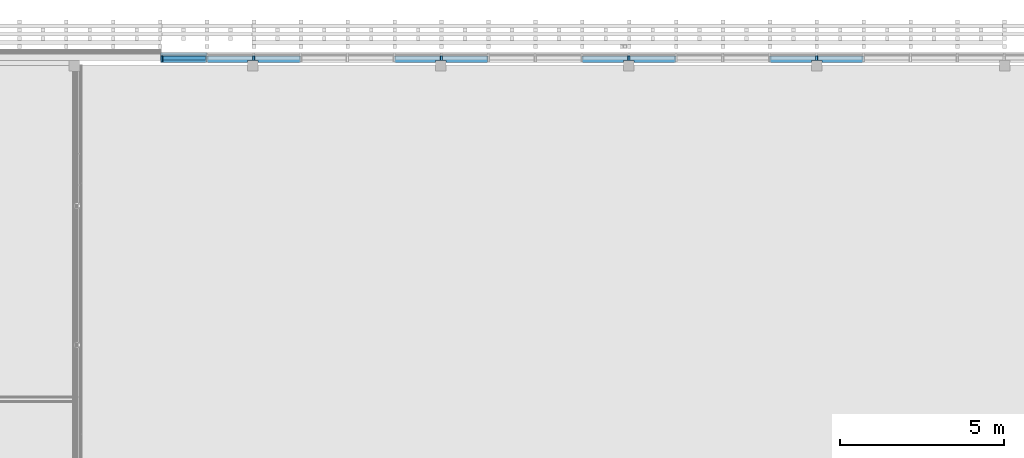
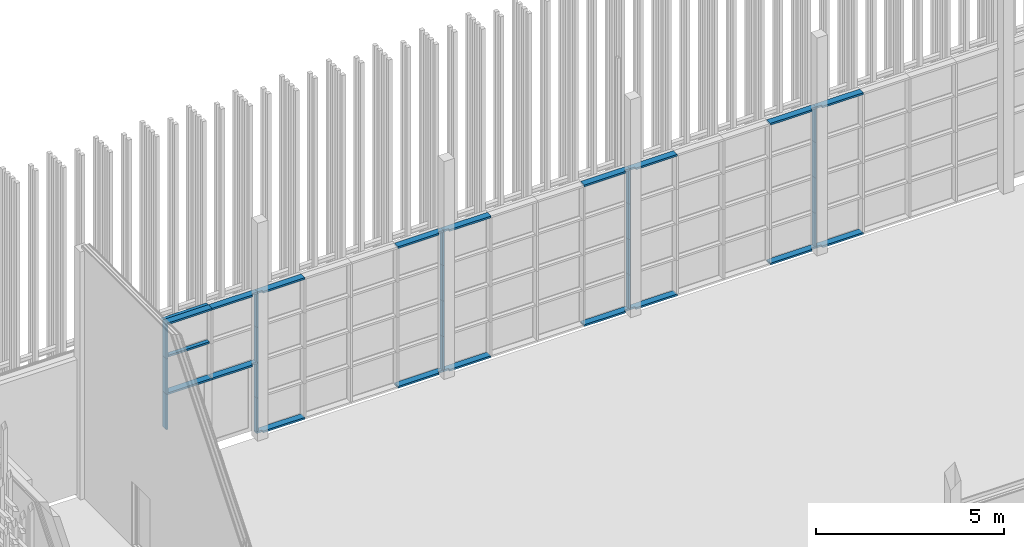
# One storey, part 90 of 260: 39 members, 2 elements without a shape of their own.
"""IFC2X3 building model written with IfcOpenShell, lengths in millimetres."""

from ifc_helpers import new_model, entity, si_unit, converted_unit, derived_unit, money_unit, direction, frame, origin_with_axes, place, context, subcontext, project, spatial, faceted_brep, material, type_object, element, aggregate, save


model = new_model("IFC2X3")

# Units and contexts
model_context = context("Model", 3, precision=0.01, world=origin_with_axes(), true_north=direction((0.0, 1.0)))
body_context = subcontext(model_context, "Body", "Model", "MODEL_VIEW")
ifc_project = project(units=[si_unit("LENGTHUNIT", "METRE", prefix="MILLI"), si_unit("AREAUNIT", "SQUARE_METRE"), si_unit("VOLUMEUNIT", "CUBIC_METRE"), converted_unit("PLANEANGLEUNIT", "DEGREE", entity("IfcPlaneAngleMeasure", 0.0174532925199), si_unit("PLANEANGLEUNIT", "RADIAN"), dimensions=[0, 0, 0, 0, 0, 0, 0]), money_unit("EUR"), converted_unit("TIMEUNIT", "Year", entity("IfcTimeMeasure", 31556926.0), si_unit("TIMEUNIT", "SECOND"), dimensions=[0, 0, 1, 0, 0, 0, 0]), si_unit("MASSUNIT", "GRAM", prefix="KILO"), si_unit("THERMODYNAMICTEMPERATUREUNIT", "DEGREE_CELSIUS"), si_unit("LUMINOUSINTENSITYUNIT", "LUMEN"), si_unit("ENERGYUNIT", "JOULE", prefix="MEGA"), derived_unit("THERMALCONDUCTANCEUNIT", [(si_unit("POWERUNIT", "WATT"), 1), (si_unit("LENGTHUNIT", "METRE"), -1), (si_unit("THERMODYNAMICTEMPERATUREUNIT", "KELVIN"), -1)]), derived_unit("SPECIFICHEATCAPACITYUNIT", [(si_unit("ENERGYUNIT", "JOULE"), 1), (si_unit("MASSUNIT", "GRAM", prefix="KILO"), -1), (si_unit("THERMODYNAMICTEMPERATUREUNIT", "KELVIN"), -1)]), derived_unit("MASSDENSITYUNIT", [(si_unit("MASSUNIT", "GRAM", prefix="KILO"), 1), (si_unit("VOLUMEUNIT", "CUBIC_METRE"), -1)])], contexts=[model_context])

# Site, building, storey
site_placement = place(None, origin_with_axes())
site = spatial("IfcSite", under=ifc_project, at=site_placement, Name="Kolde pst 67a", CompositionType="ELEMENT")
building_placement = place(site_placement, origin_with_axes())
building = spatial("IfcBuilding", under=site, at=building_placement, Name="Riigigümnaasium", CompositionType="ELEMENT")
storey_placement = place(building_placement, origin_with_axes())
storey = spatial("IfcBuildingStorey", under=building, at=storey_placement, Name="1. korrus", CompositionType="ELEMENT", Elevation=0.0)

# Curtain wall, member
curtain_wall_type = type_object("IfcCurtainWallType", Name="Curtain Wall Type", PredefinedType="NOTDEFINED")
curtain_wall_1_placement = place(storey_placement, frame((10366.0828546, 84639.9999608, 0.0), z_axis=(0.0, 0.0, 1.0), x_axis=(1.0, 0.0, 0.0)))
curtain_wall_1 = element("IfcCurtainWall", 1, at=curtain_wall_1_placement, inside=storey, type_object=curtain_wall_type, Name="KLAASFASSAAD")
ifc_material_1 = material(Name="_METALL - alumiinium")
member_type_1 = type_object("IfcMemberType", Name="Boundary Frame 50 x 100", PredefinedType="MEMBER")
member_1_placement = place(curtain_wall_1_placement, frame((-3553.58258302, 0.0, 4600.0), z_axis=(1.0, 0.0, 0.0), x_axis=(0.0, 0.0, 1.0)))
member_1 = element("IfcMember", 2, at=member_1_placement, type_object=member_type_1, material=ifc_material_1, Name="RF RAAM SERV-119", ObjectType="MEMBER", context=body_context, shape_type="Brep", body=[
    faceted_brep([(-30.0, 24.0, 1408.58258302), (-30.0, -24.0, 1408.58258302), (-50.0, -24.0, 1408.58258302), (-50.0, -40.0, 1408.58258302), (0.0, -40.0, 1408.58258302), (0.0, 60.0, 1408.58258302), (-50.0, 60.0, 1408.58258302), (-50.0, 24.0, 1408.58258302), (-30.0, 24.0, 30.0), (-30.0, -24.0, 30.0), (-50.0, -24.0, 50.0), (-50.0, -40.0, 50.0), (0.0, -40.0, 0.0), (0.0, 60.0, 0.0), (-50.0, 60.0, 50.0), (-50.0, 24.0, 50.0)], [[[0, 1, 2, 3, 4, 5, 6, 7]], [[1, 0, 8, 9]], [[10, 2, 1, 9]], [[2, 10, 11, 3]], [[4, 3, 11, 12]], [[5, 4, 12, 13]], [[6, 5, 13, 14]], [[15, 7, 6, 14]], [[0, 7, 15, 8]], [[8, 15, 14, 13, 12, 11, 10, 9]]]),
])
aggregate(curtain_wall_1, [member_1])

# Curtain wall, members
curtain_wall_2_placement = place(storey_placement, frame((7516.12873899, 84579.9999608, 0.0), z_axis=(0.0, 0.0, 1.0), x_axis=(1.0, 0.0, 0.0)))
curtain_wall_2 = element("IfcCurtainWall", 3, at=curtain_wall_2_placement, inside=storey, type_object=curtain_wall_type, Name="Klaasfassaadi puitkarkass")
ifc_material_2 = material(Name="_KANDETARIND - liimpuit vastavalt EK osale")
member_type_2 = type_object("IfcMemberType", Name="Transom Frame 60 x 120", PredefinedType="MEMBER")
member_2_placement = place(curtain_wall_2_placement, frame((-703.628467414, 0.0, 3450.0), z_axis=(1.0, 0.0, 0.0), x_axis=(0.0, 0.0, 1.0)))
member_2 = element("IfcMember", 4, at=member_2_placement, type_object=member_type_2, material=ifc_material_2, Name="RF RAAM HOR-496", ObjectType="MEMBER", context=body_context, shape_type="Brep", body=[
    faceted_brep([(30.0, 0.0, 60.0), (30.0, 120.0, 60.0), (30.0, 120.0, 1377.25693483), (30.0, 0.0, 1377.25693483), (-30.0, 0.0, 60.0), (-30.0, 120.0, 60.0), (-30.0, 120.0, 1377.25693483), (-30.0, 0.0, 1377.25693483)], [[[0, 1, 2, 3]], [[1, 0, 4, 5]], [[1, 5, 6, 2]], [[2, 6, 7, 3]], [[4, 0, 3, 7]], [[5, 4, 7, 6]]]),
])
member_type_3 = type_object("IfcMemberType", Name="Mullion Frame 60 x 200", PredefinedType="MEMBER")
member_3_placement = place(curtain_wall_2_placement, frame((2133.62846741, 0.0, 3450.0), z_axis=(0.0, 0.0, 1.0), x_axis=(-1.0, 0.0, 0.0)))
member_3 = element("IfcMember", 5, at=member_3_placement, type_object=member_type_3, material=ifc_material_2, Name="RF RAAM VERT-672", ObjectType="MEMBER", context=body_context, shape_type="Brep", body=[
    faceted_brep([(30.0, 140.0, 1090.0), (-30.0, 140.0, 1090.0), (-30.0, 0.0, 1090.0), (30.0, 0.0, 1090.0), (-30.0, 140.0, 0.0), (30.0, 140.0, 0.0), (-30.0, 0.0, 0.0), (30.0, 0.0, 0.0)], [[[0, 1, 2, 3]], [[4, 1, 0, 5]], [[1, 4, 6, 2]], [[6, 7, 3, 2]], [[5, 0, 3, 7]], [[4, 5, 7, 6]]]),
])
member_4_placement = place(curtain_wall_2_placement, frame((2133.62846741, 0.0, 0.0), z_axis=(0.0, 0.0, 1.0), x_axis=(-1.0, 0.0, 0.0)))
member_4 = element("IfcMember", 6, at=member_4_placement, type_object=member_type_3, material=ifc_material_2, Name="RF RAAM VERT-457", ObjectType="MEMBER", context=body_context, shape_type="Brep", body=[
    faceted_brep([(30.0, 140.0, 1150.0), (-30.0, 140.0, 1150.0), (-30.0, 0.0, 1150.0), (30.0, 0.0, 1150.0), (-30.0, 140.0, 60.0), (30.0, 140.0, 60.0), (-30.0, 0.0, 60.0), (30.0, 0.0, 60.0)], [[[0, 1, 2, 3]], [[4, 1, 0, 5]], [[1, 4, 6, 2]], [[2, 6, 7, 3]], [[5, 0, 3, 7]], [[4, 5, 7, 6]]]),
])
member_5_placement = place(curtain_wall_2_placement, frame((7853.62846741, 0.0, 0.0), z_axis=(0.0, 0.0, 1.0), x_axis=(-1.0, 0.0, 0.0)))
member_5 = element("IfcMember", 7, at=member_5_placement, type_object=member_type_3, material=ifc_material_2, Name="RF RAAM VERT-461", ObjectType="MEMBER", context=body_context, shape_type="Brep", body=[
    faceted_brep([(30.0, 140.019126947, 1150.0), (-30.0, 140.019126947, 1150.0), (-30.0, 0.0, 1150.0), (30.0, 0.0, 1150.0), (-30.0, 140.019126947, 60.0), (30.0, 140.019126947, 60.0), (-30.0, 0.0, 60.0), (30.0, 0.0, 60.0)], [[[0, 1, 2, 3]], [[4, 1, 0, 5]], [[1, 4, 6, 2]], [[2, 6, 7, 3]], [[5, 0, 3, 7]], [[4, 5, 7, 6]]]),
])
member_6_placement = place(curtain_wall_2_placement, frame((13573.6284674, 0.0, 0.0), z_axis=(0.0, 0.0, 1.0), x_axis=(-1.0, 0.0, 0.0)))
member_6 = element("IfcMember", 8, at=member_6_placement, type_object=member_type_3, material=ifc_material_2, Name="RF RAAM VERT-465", ObjectType="MEMBER", context=body_context, shape_type="Brep", body=[
    faceted_brep([(30.0, 140.019126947, 1150.0), (-30.0, 140.019126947, 1150.0), (-30.0, 0.0, 1150.0), (30.0, 0.0, 1150.0), (-30.0, 140.019126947, 60.0), (30.0, 140.019126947, 60.0), (-30.0, 0.0, 60.0), (30.0, 0.0, 60.0)], [[[0, 1, 2, 3]], [[4, 1, 0, 5]], [[1, 4, 6, 2]], [[2, 6, 7, 3]], [[5, 0, 3, 7]], [[4, 5, 7, 6]]]),
])
member_7_placement = place(curtain_wall_2_placement, frame((19293.6284674, 0.0, 0.0), z_axis=(0.0, 0.0, 1.0), x_axis=(-1.0, 0.0, 0.0)))
member_7 = element("IfcMember", 9, at=member_7_placement, type_object=member_type_3, material=ifc_material_2, Name="RF RAAM VERT-469", ObjectType="MEMBER", context=body_context, shape_type="Brep", body=[
    faceted_brep([(30.0, 140.019126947, 1150.0), (-30.0, 140.019126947, 1150.0), (-30.0, 0.0, 1150.0), (30.0, 0.0, 1150.0), (-30.0, 140.019126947, 60.0), (30.0, 140.019126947, 60.0), (-30.0, 0.0, 60.0), (30.0, 0.0, 60.0)], [[[0, 1, 2, 3]], [[4, 1, 0, 5]], [[1, 4, 6, 2]], [[2, 6, 7, 3]], [[5, 0, 3, 7]], [[4, 5, 7, 6]]]),
])
member_8_placement = place(curtain_wall_2_placement, frame((2133.62846741, 0.0, 1150.0), z_axis=(0.0, 0.0, 1.0), x_axis=(-1.0, 0.0, 0.0)))
member_8 = element("IfcMember", 10, at=member_8_placement, type_object=member_type_3, material=ifc_material_2, Name="RF RAAM VERT-479", ObjectType="MEMBER", context=body_context, shape_type="Brep", body=[
    faceted_brep([(0.0, 140.0, 1150.0), (-30.0, 140.0, 1150.0), (-30.0, 0.0, 1150.0), (0.0, 0.0, 1150.0), (-30.0, 140.0, 0.0), (0.0, 140.0, 1120.0), (30.0, 140.0, 1120.0), (30.0, 140.0, 0.0), (-30.0, 0.0, 0.0), (0.0, 0.0, 1120.0), (30.0, 0.0, 0.0), (30.0, 0.0, 1120.0)], [[[0, 1, 2, 3]], [[4, 1, 0, 5, 6, 7]], [[1, 4, 8, 2]], [[9, 3, 2, 8, 10, 11]], [[5, 0, 3, 9]], [[6, 5, 9, 11]], [[7, 6, 11, 10]], [[4, 7, 10, 8]]]),
])
member_9_placement = place(curtain_wall_2_placement, frame((7853.62846741, 0.0, 1150.0), z_axis=(0.0, 0.0, 1.0), x_axis=(-1.0, 0.0, 0.0)))
member_9 = element("IfcMember", 11, at=member_9_placement, type_object=member_type_3, material=ifc_material_2, Name="RF RAAM VERT-483", ObjectType="MEMBER", context=body_context, shape_type="Brep", body=[
    faceted_brep([(30.0, 140.019126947, 1150.0), (-30.0, 140.019126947, 1150.0), (-30.0, 0.0, 1150.0), (30.0, 0.0, 1150.0), (-30.0, 140.019126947, 0.0), (30.0, 140.019126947, 0.0), (-30.0, 0.0, 0.0), (30.0, 0.0, 0.0)], [[[0, 1, 2, 3]], [[4, 1, 0, 5]], [[1, 4, 6, 2]], [[6, 7, 3, 2]], [[5, 0, 3, 7]], [[4, 5, 7, 6]]]),
])
member_10_placement = place(curtain_wall_2_placement, frame((13573.6284674, 0.0, 1150.0), z_axis=(0.0, 0.0, 1.0), x_axis=(-1.0, 0.0, 0.0)))
member_10 = element("IfcMember", 12, at=member_10_placement, type_object=member_type_3, material=ifc_material_2, Name="RF RAAM VERT-487", ObjectType="MEMBER", context=body_context, shape_type="Brep", body=[
    faceted_brep([(30.0, 140.019126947, 1150.0), (-30.0, 140.019126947, 1150.0), (-30.0, 0.0, 1150.0), (30.0, 0.0, 1150.0), (-30.0, 140.019126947, 0.0), (30.0, 140.019126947, 0.0), (-30.0, 0.0, 0.0), (30.0, 0.0, 0.0)], [[[0, 1, 2, 3]], [[4, 1, 0, 5]], [[1, 4, 6, 2]], [[6, 7, 3, 2]], [[5, 0, 3, 7]], [[4, 5, 7, 6]]]),
])
member_11_placement = place(curtain_wall_2_placement, frame((19293.6284674, 0.0, 1150.0), z_axis=(0.0, 0.0, 1.0), x_axis=(-1.0, 0.0, 0.0)))
member_11 = element("IfcMember", 13, at=member_11_placement, type_object=member_type_3, material=ifc_material_2, Name="RF RAAM VERT-491", ObjectType="MEMBER", context=body_context, shape_type="Brep", body=[
    faceted_brep([(30.0, 140.019126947, 1150.0), (-30.0, 140.019126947, 1150.0), (-30.0, 0.0, 1150.0), (30.0, 0.0, 1150.0), (-30.0, 140.019126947, 0.0), (30.0, 140.019126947, 0.0), (-30.0, 0.0, 0.0), (30.0, 0.0, 0.0)], [[[0, 1, 2, 3]], [[4, 1, 0, 5]], [[1, 4, 6, 2]], [[6, 7, 3, 2]], [[5, 0, 3, 7]], [[4, 5, 7, 6]]]),
])
member_12_placement = place(curtain_wall_2_placement, frame((2133.62846741, 0.0, 2300.0), z_axis=(0.0, 0.0, 1.0), x_axis=(-1.0, 0.0, 0.0)))
member_12 = element("IfcMember", 14, at=member_12_placement, type_object=member_type_3, material=ifc_material_2, Name="RF RAAM VERT-501", ObjectType="MEMBER", context=body_context, shape_type="Brep", body=[
    faceted_brep([(30.0, 140.0, 1150.0), (-30.0, 140.0, 1150.0), (-30.0, 0.0, 1150.0), (30.0, 0.0, 1150.0), (-30.0, 140.0, 0.0), (30.0, 140.0, 30.0), (0.0, 140.0, 30.0), (0.0, 140.0, 0.0), (-30.0, 0.0, 0.0), (0.0, 0.0, 0.0), (0.0, 0.0, 30.0), (30.0, 0.0, 30.0)], [[[0, 1, 2, 3]], [[4, 1, 0, 5, 6, 7]], [[1, 4, 8, 2]], [[9, 10, 11, 3, 2, 8]], [[5, 0, 3, 11]], [[6, 5, 11, 10]], [[7, 6, 10, 9]], [[4, 7, 9, 8]]]),
])
member_13_placement = place(curtain_wall_2_placement, frame((7853.62846741, 0.0, 2300.0), z_axis=(0.0, 0.0, 1.0), x_axis=(-1.0, 0.0, 0.0)))
member_13 = element("IfcMember", 15, at=member_13_placement, type_object=member_type_3, material=ifc_material_2, Name="RF RAAM VERT-505", ObjectType="MEMBER", context=body_context, shape_type="Brep", body=[
    faceted_brep([(30.0, 140.019126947, 1150.0), (-30.0, 140.019126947, 1150.0), (-30.0, 0.0, 1150.0), (30.0, 0.0, 1150.0), (-30.0, 140.019126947, 0.0), (30.0, 140.019126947, 0.0), (-30.0, 0.0, 0.0), (30.0, 0.0, 0.0)], [[[0, 1, 2, 3]], [[4, 1, 0, 5]], [[1, 4, 6, 2]], [[6, 7, 3, 2]], [[5, 0, 3, 7]], [[4, 5, 7, 6]]]),
])
member_14_placement = place(curtain_wall_2_placement, frame((13573.6284674, 0.0, 2300.0), z_axis=(0.0, 0.0, 1.0), x_axis=(-1.0, 0.0, 0.0)))
member_14 = element("IfcMember", 16, at=member_14_placement, type_object=member_type_3, material=ifc_material_2, Name="RF RAAM VERT-509", ObjectType="MEMBER", context=body_context, shape_type="Brep", body=[
    faceted_brep([(30.0, 140.019126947, 1150.0), (-30.0, 140.019126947, 1150.0), (-30.0, 0.0, 1150.0), (30.0, 0.0, 1150.0), (-30.0, 140.019126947, 0.0), (30.0, 140.019126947, 0.0), (-30.0, 0.0, 0.0), (30.0, 0.0, 0.0)], [[[0, 1, 2, 3]], [[4, 1, 0, 5]], [[1, 4, 6, 2]], [[6, 7, 3, 2]], [[5, 0, 3, 7]], [[4, 5, 7, 6]]]),
])
member_15_placement = place(curtain_wall_2_placement, frame((19293.6284674, 0.0, 2300.0), z_axis=(0.0, 0.0, 1.0), x_axis=(-1.0, 0.0, 0.0)))
member_15 = element("IfcMember", 17, at=member_15_placement, type_object=member_type_3, material=ifc_material_2, Name="RF RAAM VERT-513", ObjectType="MEMBER", context=body_context, shape_type="Brep", body=[
    faceted_brep([(30.0, 140.019126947, 1150.0), (-30.0, 140.019126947, 1150.0), (-30.0, 0.0, 1150.0), (30.0, 0.0, 1150.0), (-30.0, 140.019126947, 0.0), (30.0, 140.019126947, 0.0), (-30.0, 0.0, 0.0), (30.0, 0.0, 0.0)], [[[0, 1, 2, 3]], [[4, 1, 0, 5]], [[1, 4, 6, 2]], [[6, 7, 3, 2]], [[5, 0, 3, 7]], [[4, 5, 7, 6]]]),
])
member_16_placement = place(curtain_wall_2_placement, frame((7853.62846741, 0.0, 3450.0), z_axis=(0.0, 0.0, 1.0), x_axis=(-1.0, 0.0, 0.0)))
member_16 = element("IfcMember", 18, at=member_16_placement, type_object=member_type_3, material=ifc_material_2, Name="RF RAAM VERT-676", ObjectType="MEMBER", context=body_context, shape_type="Brep", body=[
    faceted_brep([(30.0, 140.019126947, 1090.0), (-30.0, 140.019126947, 1090.0), (-30.0, 0.0, 1090.0), (30.0, 0.0, 1090.0), (-30.0, 140.019126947, 0.0), (30.0, 140.019126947, 0.0), (-30.0, 0.0, 0.0), (30.0, 0.0, 0.0)], [[[0, 1, 2, 3]], [[4, 1, 0, 5]], [[1, 4, 6, 2]], [[6, 7, 3, 2]], [[5, 0, 3, 7]], [[4, 5, 7, 6]]]),
])
member_17_placement = place(curtain_wall_2_placement, frame((13573.6284674, 0.0, 3450.0), z_axis=(0.0, 0.0, 1.0), x_axis=(-1.0, 0.0, 0.0)))
member_17 = element("IfcMember", 19, at=member_17_placement, type_object=member_type_3, material=ifc_material_2, Name="RF RAAM VERT-680", ObjectType="MEMBER", context=body_context, shape_type="Brep", body=[
    faceted_brep([(30.0, 140.019126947, 1090.0), (-30.0, 140.019126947, 1090.0), (-30.0, 0.0, 1090.0), (30.0, 0.0, 1090.0), (-30.0, 140.019126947, 0.0), (30.0, 140.019126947, 0.0), (-30.0, 0.0, 0.0), (30.0, 0.0, 0.0)], [[[0, 1, 2, 3]], [[4, 1, 0, 5]], [[1, 4, 6, 2]], [[6, 7, 3, 2]], [[5, 0, 3, 7]], [[4, 5, 7, 6]]]),
])
member_18_placement = place(curtain_wall_2_placement, frame((19293.6284674, 0.0, 3450.0), z_axis=(0.0, 0.0, 1.0), x_axis=(-1.0, 0.0, 0.0)))
member_18 = element("IfcMember", 20, at=member_18_placement, type_object=member_type_3, material=ifc_material_2, Name="RF RAAM VERT-684", ObjectType="MEMBER", context=body_context, shape_type="Brep", body=[
    faceted_brep([(30.0, 140.019126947, 1090.0), (-30.0, 140.019126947, 1090.0), (-30.0, 0.0, 1090.0), (30.0, 0.0, 1090.0), (-30.0, 140.019126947, 0.0), (30.0, 140.019126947, 0.0), (-30.0, 0.0, 0.0), (30.0, 0.0, 0.0)], [[[0, 1, 2, 3]], [[4, 1, 0, 5]], [[1, 4, 6, 2]], [[6, 7, 3, 2]], [[5, 0, 3, 7]], [[4, 5, 7, 6]]]),
])
member_type_4 = type_object("IfcMemberType", Name="Boundary Frame 60 x 200", PredefinedType="MEMBER")
member_19_placement = place(curtain_wall_2_placement, frame((-703.628467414, 0.0, 4600.0), z_axis=(0.0, 0.0, -1.0), x_axis=(1.0, 0.0, 0.0)))
member_19 = element("IfcMember", 21, at=member_19_placement, type_object=member_type_4, material=ifc_material_2, Name="RF RAAM SERV-456", ObjectType="MEMBER", context=body_context, shape_type="Brep", body=[
    faceted_brep([(60.0, 0.0, 60.0), (60.0, 200.0, 60.0), (60.0, 200.0, 1150.0), (60.0, 0.0, 1150.0), (0.0, 0.0, 0.0), (0.0, 200.0, 0.0), (0.0, 200.0, 1150.0), (0.0, 0.0, 1150.0)], [[[0, 1, 2, 3]], [[1, 0, 4, 5]], [[1, 5, 6, 2]], [[2, 6, 7, 3]], [[4, 0, 3, 7]], [[5, 4, 7, 6]]]),
])
member_20_placement = place(curtain_wall_2_placement, frame((2133.62846741, 0.0, 0.0), z_axis=(1.0, 0.0, 0.0), x_axis=(0.0, 0.0, 1.0)))
member_20 = element("IfcMember", 22, at=member_20_placement, type_object=member_type_4, material=ifc_material_2, Name="RF RAAM SERV-412", ObjectType="MEMBER", context=body_context, shape_type="Brep", body=[
    faceted_brep([(60.0, 140.0, 140.242793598), (60.0, 200.0, 140.242793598), (60.0, 200.0, 1430.0), (60.0, 0.0, 1430.0), (60.0, 0.0, -30.0), (60.0, 140.0, -30.0), (0.0, 140.0, 140.242793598), (0.0, 200.0, 140.242793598), (0.0, 200.0, 1430.0), (0.0, 0.0, 1430.0), (0.0, 0.0, -30.0), (0.0, 140.0, -30.0)], [[[0, 1, 2, 3, 4, 5]], [[1, 0, 6, 7]], [[1, 7, 8, 2]], [[3, 2, 8, 9]], [[10, 4, 3, 9]], [[11, 5, 4, 10]], [[0, 5, 11, 6]], [[6, 11, 10, 9, 8, 7]]]),
])
member_21_placement = place(curtain_wall_2_placement, frame((6423.62846741, 0.0, 0.0), z_axis=(1.0, 0.0, 0.0), x_axis=(0.0, 0.0, 1.0)))
member_21 = element("IfcMember", 23, at=member_21_placement, type_object=member_type_4, material=ifc_material_2, Name="RF RAAM SERV-415", ObjectType="MEMBER", context=body_context, shape_type="Brep", body=[
    faceted_brep([(60.0, 200.0, 1260.2427936), (60.0, 140.019126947, 1260.2427936), (60.0, 140.019126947, 1430.0), (60.0, 0.0, 1430.0), (60.0, 0.0, 0.0), (60.0, 200.0, 0.0), (0.0, 200.0, 1260.2427936), (0.0, 140.019126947, 1260.2427936), (0.0, 140.019126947, 1430.0), (0.0, 0.0, 1430.0), (0.0, 0.0, 0.0), (0.0, 200.0, 0.0)], [[[0, 1, 2, 3, 4, 5]], [[1, 0, 6, 7]], [[8, 2, 1, 7]], [[2, 8, 9, 3]], [[10, 4, 3, 9]], [[11, 5, 4, 10]], [[6, 0, 5, 11]], [[7, 6, 11, 10, 9, 8]]]),
])
member_22_placement = place(curtain_wall_2_placement, frame((7853.62846741, 0.0, 0.0), z_axis=(1.0, 0.0, 0.0), x_axis=(0.0, 0.0, 1.0)))
member_22 = element("IfcMember", 24, at=member_22_placement, type_object=member_type_4, material=ifc_material_2, Name="RF RAAM SERV-416", ObjectType="MEMBER", context=body_context, shape_type="Brep", body=[
    faceted_brep([(60.0, 140.019126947, 150.242793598), (60.0, 200.0, 150.242793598), (60.0, 200.0, 1430.0), (60.0, 0.0, 1430.0), (60.0, 0.0, 0.0), (60.0, 140.019126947, 0.0), (0.0, 140.019126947, 150.242793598), (0.0, 200.0, 150.242793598), (0.0, 200.0, 1430.0), (0.0, 0.0, 1430.0), (0.0, 0.0, 0.0), (0.0, 140.019126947, 0.0)], [[[0, 1, 2, 3, 4, 5]], [[1, 0, 6, 7]], [[1, 7, 8, 2]], [[3, 2, 8, 9]], [[10, 4, 3, 9]], [[11, 5, 4, 10]], [[0, 5, 11, 6]], [[6, 11, 10, 9, 8, 7]]]),
])
member_23_placement = place(curtain_wall_2_placement, frame((12143.6284674, 0.0, 0.0), z_axis=(1.0, 0.0, 0.0), x_axis=(0.0, 0.0, 1.0)))
member_23 = element("IfcMember", 25, at=member_23_placement, type_object=member_type_4, material=ifc_material_2, Name="RF RAAM SERV-419", ObjectType="MEMBER", context=body_context, shape_type="Brep", body=[
    faceted_brep([(60.0, 200.0, 1270.2427936), (60.0, 140.019126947, 1270.2427936), (60.0, 140.019126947, 1430.0), (60.0, 0.0, 1430.0), (60.0, 0.0, 0.0), (60.0, 200.0, 0.0), (0.0, 200.0, 1270.2427936), (0.0, 140.019126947, 1270.2427936), (0.0, 140.019126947, 1430.0), (0.0, 0.0, 1430.0), (0.0, 0.0, 0.0), (0.0, 200.0, 0.0)], [[[0, 1, 2, 3, 4, 5]], [[1, 0, 6, 7]], [[8, 2, 1, 7]], [[2, 8, 9, 3]], [[10, 4, 3, 9]], [[11, 5, 4, 10]], [[6, 0, 5, 11]], [[7, 6, 11, 10, 9, 8]]]),
])
member_24_placement = place(curtain_wall_2_placement, frame((13573.6284674, 0.0, 0.0), z_axis=(1.0, 0.0, 0.0), x_axis=(0.0, 0.0, 1.0)))
member_24 = element("IfcMember", 26, at=member_24_placement, type_object=member_type_4, material=ifc_material_2, Name="RF RAAM SERV-420", ObjectType="MEMBER", context=body_context, shape_type="Brep", body=[
    faceted_brep([(60.0, 140.019126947, 160.242793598), (60.0, 200.0, 160.242793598), (60.0, 200.0, 1430.0), (60.0, 0.0, 1430.0), (60.0, 0.0, 0.0), (60.0, 140.019126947, 0.0), (0.0, 140.019126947, 160.242793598), (0.0, 200.0, 160.242793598), (0.0, 200.0, 1430.0), (0.0, 0.0, 1430.0), (0.0, 0.0, 0.0), (0.0, 140.019126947, 0.0)], [[[0, 1, 2, 3, 4, 5]], [[1, 0, 6, 7]], [[1, 7, 8, 2]], [[3, 2, 8, 9]], [[10, 4, 3, 9]], [[11, 5, 4, 10]], [[0, 5, 11, 6]], [[6, 11, 10, 9, 8, 7]]]),
])
member_25_placement = place(curtain_wall_2_placement, frame((17863.6284674, 0.0, 0.0), z_axis=(1.0, 0.0, 0.0), x_axis=(0.0, 0.0, 1.0)))
member_25 = element("IfcMember", 27, at=member_25_placement, type_object=member_type_4, material=ifc_material_2, Name="RF RAAM SERV-423", ObjectType="MEMBER", context=body_context, shape_type="Brep", body=[
    faceted_brep([(60.0, 200.0, 1280.2427936), (60.0, 140.019126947, 1280.2427936), (60.0, 140.019126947, 1430.0), (60.0, 0.0, 1430.0), (60.0, 0.0, 0.0), (60.0, 200.0, 0.0), (0.0, 200.0, 1280.2427936), (0.0, 140.019126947, 1280.2427936), (0.0, 140.019126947, 1430.0), (0.0, 0.0, 1430.0), (0.0, 0.0, 0.0), (0.0, 200.0, 0.0)], [[[0, 1, 2, 3, 4, 5]], [[1, 0, 6, 7]], [[8, 2, 1, 7]], [[2, 8, 9, 3]], [[10, 4, 3, 9]], [[11, 5, 4, 10]], [[6, 0, 5, 11]], [[7, 6, 11, 10, 9, 8]]]),
])
member_26_placement = place(curtain_wall_2_placement, frame((19293.6284674, 0.0, 0.0), z_axis=(1.0, 0.0, 0.0), x_axis=(0.0, 0.0, 1.0)))
member_26 = element("IfcMember", 28, at=member_26_placement, type_object=member_type_4, material=ifc_material_2, Name="RF RAAM SERV-424", ObjectType="MEMBER", context=body_context, shape_type="Brep", body=[
    faceted_brep([(60.0, 140.019126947, 170.242793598), (60.0, 200.0, 170.242793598), (60.0, 200.0, 1430.0), (60.0, 0.0, 1430.0), (60.0, 0.0, 0.0), (60.0, 140.019126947, 0.0), (0.0, 140.019126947, 170.242793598), (0.0, 200.0, 170.242793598), (0.0, 200.0, 1430.0), (0.0, 0.0, 1430.0), (0.0, 0.0, 0.0), (0.0, 140.019126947, 0.0)], [[[0, 1, 2, 3, 4, 5]], [[1, 0, 6, 7]], [[1, 7, 8, 2]], [[3, 2, 8, 9]], [[10, 4, 3, 9]], [[11, 5, 4, 10]], [[0, 5, 11, 6]], [[6, 11, 10, 9, 8, 7]]]),
])
member_27_placement = place(curtain_wall_2_placement, frame((703.628467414, 0.0, 2300.0), z_axis=(1.0, 0.0, 0.0), x_axis=(0.0, 0.0, 1.0)))
member_27 = element("IfcMember", 29, at=member_27_placement, type_object=member_type_4, material=ifc_material_2, Name="RF RAAM HOR-474", ObjectType="MEMBER", context=body_context, shape_type="Brep", body=[
    faceted_brep([(30.0, 200.0, 1250.2427936), (30.0, 140.0, 1250.2427936), (30.0, 140.0, 1430.0), (30.0, 0.0, 1430.0), (30.0, 0.0, 0.0), (30.0, 200.0, 0.0), (-30.0, 200.0, 1250.2427936), (-30.0, 140.0, 1250.2427936), (-30.0, 140.0, 1430.0), (-30.0, 0.0, 1430.0), (-30.0, 0.0, 0.0), (-30.0, 200.0, 0.0)], [[[0, 1, 2, 3, 4, 5]], [[1, 0, 6, 7]], [[8, 2, 1, 7]], [[2, 8, 9, 3]], [[10, 4, 3, 9]], [[11, 5, 4, 10]], [[6, 0, 5, 11]], [[7, 6, 11, 10, 9, 8]]]),
])
member_28_placement = place(curtain_wall_2_placement, frame((-703.628467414, 0.0, 3450.0), z_axis=(0.0, 0.0, -1.0), x_axis=(1.0, 0.0, 0.0)))
member_28 = element("IfcMember", 30, at=member_28_placement, type_object=member_type_4, material=ifc_material_2, Name="RF RAAM SERV-457", ObjectType="MEMBER", context=body_context, shape_type="Brep", body=[
    faceted_brep([(0.0, 0.0, 1150.0), (0.0, 0.0, 0.0), (60.0, 0.0, 0.0), (60.0, 0.0, 1120.0), (0.0, 200.0, 1150.0), (0.0, 200.0, 0.0), (60.0, 200.0, 0.0), (60.0, 200.0, 1120.0)], [[[0, 1, 2, 3]], [[4, 5, 1, 0]], [[5, 6, 2, 1]], [[3, 2, 6, 7]], [[7, 4, 0, 3]], [[7, 6, 5, 4]]]),
])
member_29_placement = place(curtain_wall_2_placement, frame((-703.628467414, 0.0, 2300.0), z_axis=(1.0, 0.0, 0.0), x_axis=(0.0, 0.0, 1.0)))
member_29 = element("IfcMember", 31, at=member_29_placement, type_object=member_type_4, material=ifc_material_2, Name="RF RAAM HOR-694", ObjectType="MEMBER", context=body_context, shape_type="Brep", body=[
    faceted_brep([(30.0, 200.0, 60.0), (30.0, 200.0, 1407.25693483), (30.0, 0.0, 1407.25693483), (30.0, 0.0, 60.0), (0.0, 200.0, 0.0), (-30.0, 200.0, 60.0), (-30.0, 200.0, 1407.25693483), (-30.0, 0.0, 1407.25693483), (0.0, 0.0, 0.0), (-30.0, 0.0, 60.0)], [[[0, 1, 2, 3]], [[4, 5, 6, 1, 0]], [[2, 1, 6, 7]], [[8, 3, 2, 7, 9]], [[8, 4, 0, 3]], [[9, 5, 4, 8]], [[9, 7, 6, 5]]]),
])
member_30_placement = place(curtain_wall_2_placement, frame((-703.628467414, 0.0, 2300.0), z_axis=(0.0, 0.0, -1.0), x_axis=(1.0, 0.0, 0.0)))
member_30 = element("IfcMember", 32, at=member_30_placement, type_object=member_type_4, material=ifc_material_2, Name="RF RAAM SERV-458", ObjectType="MEMBER", context=body_context, shape_type="Brep", body=[
    faceted_brep([(60.0, 200.0, 30.0), (60.0, 200.0, 1150.0), (60.0, 0.0, 1150.0), (60.0, 0.0, 30.0), (0.0, 200.0, 0.0), (0.0, 200.0, 1150.0), (0.0, 0.0, 1150.0), (0.0, 0.0, 0.0)], [[[0, 1, 2, 3]], [[4, 5, 1, 0]], [[2, 1, 5, 6]], [[3, 2, 6, 7]], [[7, 4, 0, 3]], [[7, 6, 5, 4]]]),
])
member_31_placement = place(curtain_wall_2_placement, frame((-703.628467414, 0.0, 4600.0), z_axis=(1.0, 0.0, 0.0), x_axis=(0.0, 0.0, 1.0)))
member_31 = element("IfcMember", 33, at=member_31_placement, type_object=member_type_4, material=ifc_material_2, Name="RF RAAM SERV-455", ObjectType="MEMBER", context=body_context, shape_type="Brep", body=[
    faceted_brep([(-60.0, 0.0, 60.0), (-60.0, 0.0, 1407.25693483), (-60.0, 200.0, 1407.25693483), (-60.0, 200.0, 60.0), (0.0, 0.0, 0.0), (0.0, 0.0, 1407.25693483), (0.0, 200.0, 1407.25693483), (0.0, 200.0, 0.0)], [[[0, 1, 2, 3]], [[4, 5, 1, 0]], [[2, 1, 5, 6]], [[3, 2, 6, 7]], [[3, 7, 4, 0]], [[7, 6, 5, 4]]]),
])
member_32_placement = place(curtain_wall_2_placement, frame((703.628467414, 0.0, 4600.0), z_axis=(1.0, 0.0, 0.0), x_axis=(0.0, 0.0, 1.0)))
member_32 = element("IfcMember", 34, at=member_32_placement, type_object=member_type_4, material=ifc_material_2, Name="RF RAAM SERV-454", ObjectType="MEMBER", context=body_context, shape_type="Brep", body=[
    faceted_brep([(0.0, 200.0, 1250.2427936), (0.0, 140.0, 1250.2427936), (0.0, 140.0, 1430.0), (0.0, 0.0, 1430.0), (0.0, 0.0, 0.0), (0.0, 200.0, 0.0), (-60.0, 200.0, 1250.2427936), (-60.0, 140.0, 1250.2427936), (-60.0, 140.0, 1430.0), (-60.0, 0.0, 1430.0), (-60.0, 0.0, 0.0), (-60.0, 200.0, 0.0)], [[[0, 1, 2, 3, 4, 5]], [[1, 0, 6, 7]], [[8, 2, 1, 7]], [[2, 8, 9, 3]], [[9, 10, 4, 3]], [[10, 11, 5, 4]], [[6, 0, 5, 11]], [[7, 6, 11, 10, 9, 8]]]),
])
member_33_placement = place(curtain_wall_2_placement, frame((2133.62846741, 0.0, 4600.0), z_axis=(1.0, 0.0, 0.0), x_axis=(0.0, 0.0, 1.0)))
member_33 = element("IfcMember", 35, at=member_33_placement, type_object=member_type_4, material=ifc_material_2, Name="RF RAAM SERV-453", ObjectType="MEMBER", context=body_context, shape_type="Brep", body=[
    faceted_brep([(0.0, 140.0, 140.242793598), (0.0, 200.0, 140.242793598), (0.0, 200.0, 1430.0), (0.0, 0.0, 1430.0), (0.0, 0.0, 0.0), (0.0, 140.0, 0.0), (-60.0, 140.0, 140.242793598), (-60.0, 200.0, 140.242793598), (-60.0, 200.0, 1430.0), (-60.0, 0.0, 1430.0), (-60.0, 0.0, 0.0), (-60.0, 140.0, 0.0)], [[[0, 1, 2, 3, 4, 5]], [[1, 0, 6, 7]], [[1, 7, 8, 2]], [[2, 8, 9, 3]], [[9, 10, 4, 3]], [[11, 5, 4, 10]], [[0, 5, 11, 6]], [[6, 11, 10, 9, 8, 7]]]),
])
member_34_placement = place(curtain_wall_2_placement, frame((6423.62846741, 0.0, 4600.0), z_axis=(1.0, 0.0, 0.0), x_axis=(0.0, 0.0, 1.0)))
member_34 = element("IfcMember", 36, at=member_34_placement, type_object=member_type_4, material=ifc_material_2, Name="RF RAAM SERV-450", ObjectType="MEMBER", context=body_context, shape_type="Brep", body=[
    faceted_brep([(0.0, 200.0, 1260.2427936), (0.0, 140.019126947, 1260.2427936), (0.0, 140.019126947, 1430.0), (0.0, 0.0, 1430.0), (0.0, 0.0, 0.0), (0.0, 200.0, 0.0), (-60.0, 200.0, 1260.2427936), (-60.0, 140.019126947, 1260.2427936), (-60.0, 140.019126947, 1430.0), (-60.0, 0.0, 1430.0), (-60.0, 0.0, 0.0), (-60.0, 200.0, 0.0)], [[[0, 1, 2, 3, 4, 5]], [[1, 0, 6, 7]], [[8, 2, 1, 7]], [[2, 8, 9, 3]], [[9, 10, 4, 3]], [[10, 11, 5, 4]], [[6, 0, 5, 11]], [[7, 6, 11, 10, 9, 8]]]),
])
member_35_placement = place(curtain_wall_2_placement, frame((7853.62846741, 0.0, 4600.0), z_axis=(1.0, 0.0, 0.0), x_axis=(0.0, 0.0, 1.0)))
member_35 = element("IfcMember", 37, at=member_35_placement, type_object=member_type_4, material=ifc_material_2, Name="RF RAAM SERV-449", ObjectType="MEMBER", context=body_context, shape_type="Brep", body=[
    faceted_brep([(0.0, 140.019126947, 150.242793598), (0.0, 200.0, 150.242793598), (0.0, 200.0, 1430.0), (0.0, 0.0, 1430.0), (0.0, 0.0, 0.0), (0.0, 140.019126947, 0.0), (-60.0, 140.019126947, 150.242793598), (-60.0, 200.0, 150.242793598), (-60.0, 200.0, 1430.0), (-60.0, 0.0, 1430.0), (-60.0, 0.0, 0.0), (-60.0, 140.019126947, 0.0)], [[[0, 1, 2, 3, 4, 5]], [[1, 0, 6, 7]], [[1, 7, 8, 2]], [[2, 8, 9, 3]], [[9, 10, 4, 3]], [[11, 5, 4, 10]], [[0, 5, 11, 6]], [[6, 11, 10, 9, 8, 7]]]),
])
member_36_placement = place(curtain_wall_2_placement, frame((12143.6284674, 0.0, 4600.0), z_axis=(1.0, 0.0, 0.0), x_axis=(0.0, 0.0, 1.0)))
member_36 = element("IfcMember", 38, at=member_36_placement, type_object=member_type_4, material=ifc_material_2, Name="RF RAAM SERV-446", ObjectType="MEMBER", context=body_context, shape_type="Brep", body=[
    faceted_brep([(0.0, 200.0, 1270.2427936), (0.0, 140.019126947, 1270.2427936), (0.0, 140.019126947, 1430.0), (0.0, 0.0, 1430.0), (0.0, 0.0, 0.0), (0.0, 200.0, 0.0), (-60.0, 200.0, 1270.2427936), (-60.0, 140.019126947, 1270.2427936), (-60.0, 140.019126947, 1430.0), (-60.0, 0.0, 1430.0), (-60.0, 0.0, 0.0), (-60.0, 200.0, 0.0)], [[[0, 1, 2, 3, 4, 5]], [[1, 0, 6, 7]], [[8, 2, 1, 7]], [[2, 8, 9, 3]], [[9, 10, 4, 3]], [[10, 11, 5, 4]], [[6, 0, 5, 11]], [[7, 6, 11, 10, 9, 8]]]),
])
member_37_placement = place(curtain_wall_2_placement, frame((13573.6284674, 0.0, 4600.0), z_axis=(1.0, 0.0, 0.0), x_axis=(0.0, 0.0, 1.0)))
member_37 = element("IfcMember", 39, at=member_37_placement, type_object=member_type_4, material=ifc_material_2, Name="RF RAAM SERV-445", ObjectType="MEMBER", context=body_context, shape_type="Brep", body=[
    faceted_brep([(0.0, 140.019126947, 160.242793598), (0.0, 200.0, 160.242793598), (0.0, 200.0, 1430.0), (0.0, 0.0, 1430.0), (0.0, 0.0, 0.0), (0.0, 140.019126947, 0.0), (-60.0, 140.019126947, 160.242793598), (-60.0, 200.0, 160.242793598), (-60.0, 200.0, 1430.0), (-60.0, 0.0, 1430.0), (-60.0, 0.0, 0.0), (-60.0, 140.019126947, 0.0)], [[[0, 1, 2, 3, 4, 5]], [[1, 0, 6, 7]], [[1, 7, 8, 2]], [[2, 8, 9, 3]], [[9, 10, 4, 3]], [[11, 5, 4, 10]], [[0, 5, 11, 6]], [[6, 11, 10, 9, 8, 7]]]),
])
member_38_placement = place(curtain_wall_2_placement, frame((17863.6284674, 0.0, 4600.0), z_axis=(1.0, 0.0, 0.0), x_axis=(0.0, 0.0, 1.0)))
member_38 = element("IfcMember", 40, at=member_38_placement, type_object=member_type_4, material=ifc_material_2, Name="RF RAAM SERV-442", ObjectType="MEMBER", context=body_context, shape_type="Brep", body=[
    faceted_brep([(0.0, 200.0, 1280.2427936), (0.0, 140.019126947, 1280.2427936), (0.0, 140.019126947, 1430.0), (0.0, 0.0, 1430.0), (0.0, 0.0, 0.0), (0.0, 200.0, 0.0), (-60.0, 200.0, 1280.2427936), (-60.0, 140.019126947, 1280.2427936), (-60.0, 140.019126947, 1430.0), (-60.0, 0.0, 1430.0), (-60.0, 0.0, 0.0), (-60.0, 200.0, 0.0)], [[[0, 1, 2, 3, 4, 5]], [[1, 0, 6, 7]], [[8, 2, 1, 7]], [[2, 8, 9, 3]], [[9, 10, 4, 3]], [[10, 11, 5, 4]], [[6, 0, 5, 11]], [[7, 6, 11, 10, 9, 8]]]),
])
member_39_placement = place(curtain_wall_2_placement, frame((19293.6284674, 0.0, 4600.0), z_axis=(1.0, 0.0, 0.0), x_axis=(0.0, 0.0, 1.0)))
member_39 = element("IfcMember", 41, at=member_39_placement, type_object=member_type_4, material=ifc_material_2, Name="RF RAAM SERV-441", ObjectType="MEMBER", context=body_context, shape_type="Brep", body=[
    faceted_brep([(0.0, 140.019126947, 170.242793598), (0.0, 200.0, 170.242793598), (0.0, 200.0, 1430.0), (0.0, 0.0, 1430.0), (0.0, 0.0, 0.0), (0.0, 140.019126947, 0.0), (-60.0, 140.019126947, 170.242793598), (-60.0, 200.0, 170.242793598), (-60.0, 200.0, 1430.0), (-60.0, 0.0, 1430.0), (-60.0, 0.0, 0.0), (-60.0, 140.019126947, 0.0)], [[[0, 1, 2, 3, 4, 5]], [[1, 0, 6, 7]], [[1, 7, 8, 2]], [[2, 8, 9, 3]], [[9, 10, 4, 3]], [[11, 5, 4, 10]], [[0, 5, 11, 6]], [[6, 11, 10, 9, 8, 7]]]),
])
aggregate(curtain_wall_2, [member_3, member_19, member_20, member_4, member_21, member_22, member_5, member_23, member_24, member_6, member_25, member_26, member_7, member_8, member_9, member_10, member_11, member_27, member_12, member_13, member_14, member_15, member_2, member_28, member_29, member_30, member_16, member_17, member_18, member_31, member_32, member_33, member_34, member_35, member_36, member_37, member_38, member_39])

save(model, "model.ifc")
